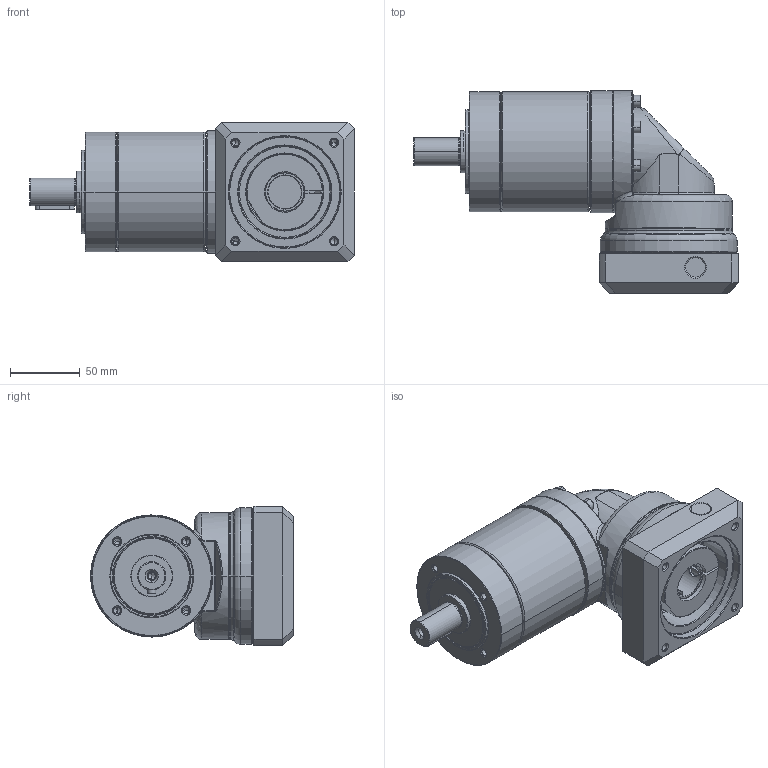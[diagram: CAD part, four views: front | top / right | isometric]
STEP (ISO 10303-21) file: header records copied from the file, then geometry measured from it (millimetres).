
FILE_DESCRIPTION((''),'2;1');
FILE_NAME('PG2R-080_2ST_24-P0411500101_ASM','2016-04-25T',('d01943'),(''),'PRO/ENGINEER BY PARAMETRIC TECHNOLOGY CORPORATION, 2008410','PRO/ENGINEER BY PARAMETRIC TECHNOLOGY CORPORATION, 2008410','');
FILE_SCHEMA(('CONFIG_CONTROL_DESIGN'));
Length unit declared in the file: millimetre
Products named in the file (12): P1325310001; P0251300001; P0350301103; P1349300001; P1017300001; P0713302001; P0503500008; P1350300201; P0411500101; P1702500001; 2111BA05025; PG2R-080_2ST_24-P0411500101_ASM
Assembly tree (16 placements, depth 2):
  PG2R-080_2ST_24-P0411500101_ASM
    P1325310001
    P0251300001
    P0350301103
    P1349300001
    P1017300001
    P0713302001
    P0503500008
    P1350300201
    P0411500101
    P1702500001
    2111BA05025  x6
Bounding box: 233 x 145.25 x 100 mm (x, y, z)
Volume: 886285.5 mm3; surface area: 218764.7 mm2
Topology: 16 solids, 17 shells, 785 faces, 1714 edges, 994 vertices
Faces by surface type: cylinder 246, cone 216, plane 191, torus 100, bspline 32
Entity records: 22862 total; most frequent: CARTESIAN_POINT 8919, DIRECTION 3115, ORIENTED_EDGE 2676, EDGE_CURVE 1338, AXIS2_PLACEMENT_3D 1317, VERTEX_POINT 794, EDGE_LOOP 704, CIRCLE 701
